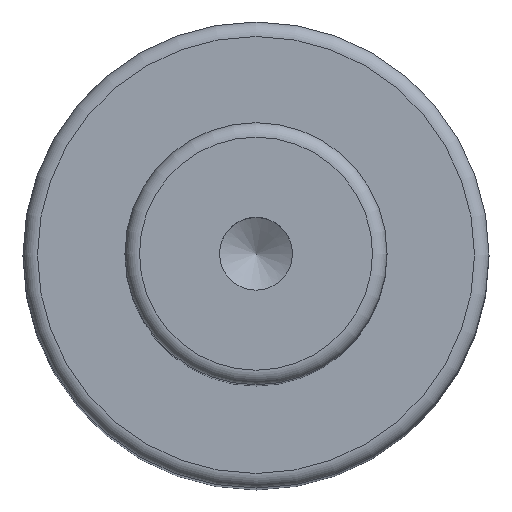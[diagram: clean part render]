
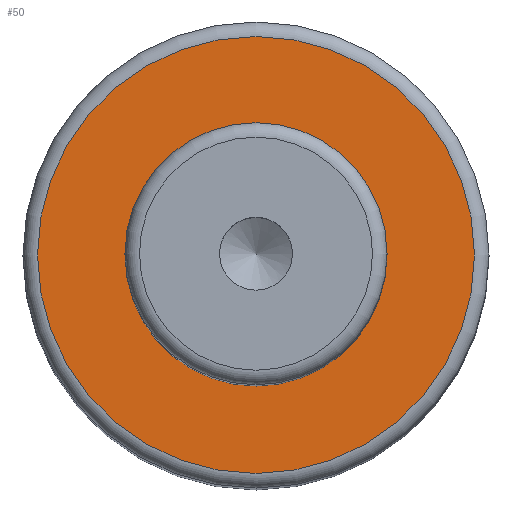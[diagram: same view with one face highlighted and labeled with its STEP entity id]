
A CAD part, top view. The second image highlights one B-rep face of the part: STEP entity #50.
In plain terms, the highlighted planar face has unit normal (0, 0, 1).
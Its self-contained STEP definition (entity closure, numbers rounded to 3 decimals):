
#40=PLANE('',#179);
#50=ADVANCED_FACE('',(#72,#73),#40,.F.);
#72=FACE_BOUND('',#96,.T.);
#73=FACE_BOUND('',#97,.T.);
#96=EDGE_LOOP('',(#118));
#97=EDGE_LOOP('',(#119));
#118=ORIENTED_EDGE('',*,*,#149,.F.);
#119=ORIENTED_EDGE('',*,*,#148,.T.);
#135=VERTEX_POINT('',#256);
#136=VERTEX_POINT('',#259);
#148=EDGE_CURVE('',#135,#135,#159,.T.);
#149=EDGE_CURVE('',#136,#136,#160,.T.);
#159=CIRCLE('',#176,9.);
#160=CIRCLE('',#178,15.);
#176=AXIS2_PLACEMENT_3D('',#255,#213,#214);
#178=AXIS2_PLACEMENT_3D('',#258,#217,#218);
#179=AXIS2_PLACEMENT_3D('',#260,#219,#220);
#213=DIRECTION('',(0.,0.,-1.));
#214=DIRECTION('',(-1.,0.,0.));
#217=DIRECTION('',(0.,0.,-1.));
#218=DIRECTION('',(-1.,0.,0.));
#219=DIRECTION('',(0.,0.,-1.));
#220=DIRECTION('',(-1.,0.,0.));
#255=CARTESIAN_POINT('',(0.,0.,79.));
#256=CARTESIAN_POINT('',(-9.,0.,79.));
#258=CARTESIAN_POINT('',(0.,0.,79.));
#259=CARTESIAN_POINT('',(-15.,0.,79.));
#260=CARTESIAN_POINT('',(9.,0.,79.));
